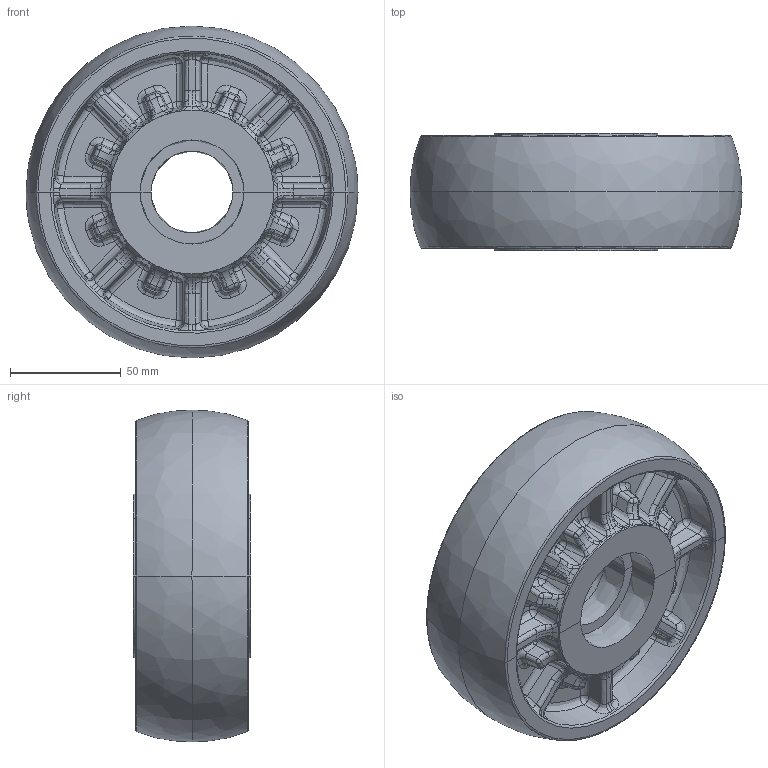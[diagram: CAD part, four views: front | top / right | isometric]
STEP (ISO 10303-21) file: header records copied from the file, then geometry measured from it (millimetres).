
FILE_DESCRIPTION (( 'STEP AP214' ), '1' );
FILE_NAME ('ME-150W_stp.STEP', '2022-07-22T06:32:41', ( '' ), ( '' ), 'SwSTEP 2.0', 'SolidWorks 2010', '' );
FILE_SCHEMA (( 'AUTOMOTIVE_DESIGN' ));
Length unit declared in the file: millimetre
Products named in the file (1): ME-150W_stp
Bounding box: 150 x 53 x 150 mm (x, y, z)
Volume: 616334.8 mm3; surface area: 80211.3 mm2
Topology: 1 solids, 1 shells, 1120 faces, 2748 edges, 1516 vertices
Faces by surface type: bspline 1104, plane 16
Entity records: 105570 total; most frequent: CARTESIAN_POINT 83917, ORIENTED_EDGE 5272, EDGE_CURVE 2636, B_SPLINE_CURVE_WITH_KNOTS 2588, VERTEX_POINT 1516, FACE_OUTER_BOUND 1120, EDGE_LOOP 1120, ADVANCED_FACE 1120
